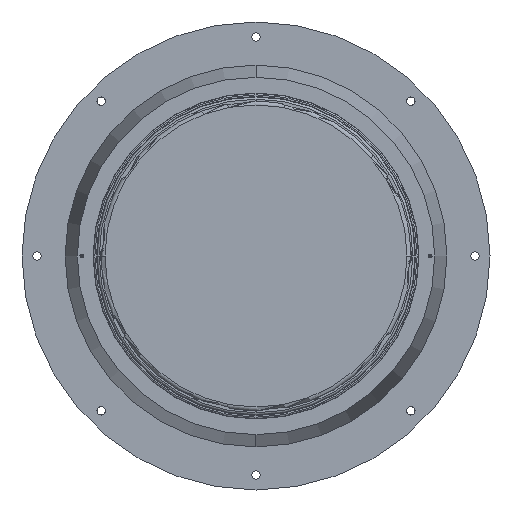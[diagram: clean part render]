
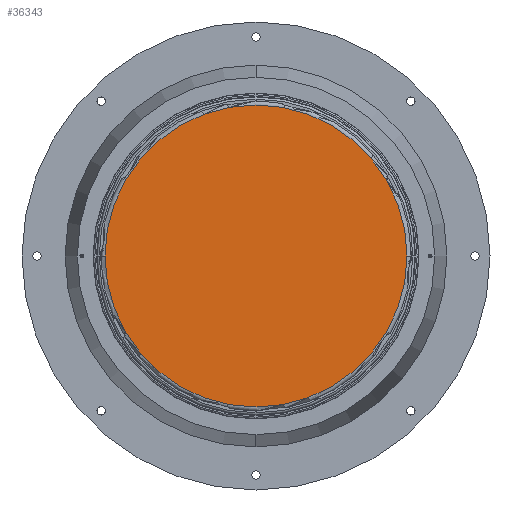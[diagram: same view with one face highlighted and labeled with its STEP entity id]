
A CAD part, front view. The second image highlights one B-rep face of the part: STEP entity #36343.
In plain terms, the highlighted planar face has unit normal (0, -1, 0).
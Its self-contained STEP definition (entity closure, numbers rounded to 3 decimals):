
#1420 = AXIS2_PLACEMENT_3D ( 'NONE', #3865, #66727, #12893 ) ;
#3865 = CARTESIAN_POINT ( 'NONE',  ( 0., 0., 0. ) ) ;
#8092 = EDGE_CURVE ( 'NONE', #80878, #80303, #43767, .T. ) ;
#12893 = DIRECTION ( 'NONE',  ( 0., 0., -1. ) ) ;
#21633 = EDGE_CURVE ( 'NONE', #80303, #80878, #48342, .T. ) ;
#31177 = ORIENTED_EDGE ( 'NONE', *, *, #8092, .T. ) ;
#33463 = CARTESIAN_POINT ( 'NONE',  ( 327.485, 0., 500000. ) ) ;
#36343 = ADVANCED_FACE ( 'NONE', ( #41568 ), #51218, .F. ) ;
#40728 = CARTESIAN_POINT ( 'NONE',  ( -327.485, 0., 0. ) ) ;
#41568 = FACE_OUTER_BOUND ( 'NONE', #59576, .T. ) ;
#42548 = DIRECTION ( 'NONE',  ( 0., 0., 1. ) ) ;
#42968 = CARTESIAN_POINT ( 'NONE',  ( 0., 0., 0. ) ) ;
#43767 = CIRCLE ( 'NONE', #108796, 327.485 ) ;
#48342 = CIRCLE ( 'NONE', #1420, 327.485 ) ;
#51218 = PLANE ( 'NONE',  #106036 ) ;
#52034 = DIRECTION ( 'NONE',  ( 0., 0., -1. ) ) ;
#52412 = CARTESIAN_POINT ( 'NONE',  ( 327.485, 0., 0. ) ) ;
#59576 = EDGE_LOOP ( 'NONE', ( #92890, #31177 ) ) ;
#66727 = DIRECTION ( 'NONE',  ( 0., -1., 0. ) ) ;
#80303 = VERTEX_POINT ( 'NONE', #40728 ) ;
#80878 = VERTEX_POINT ( 'NONE', #52412 ) ;
#92890 = ORIENTED_EDGE ( 'NONE', *, *, #21633, .T. ) ;
#96147 = DIRECTION ( 'NONE',  ( 0., 1., 0. ) ) ;
#105529 = DIRECTION ( 'NONE',  ( 0., -1., 0. ) ) ;
#106036 = AXIS2_PLACEMENT_3D ( 'NONE', #33463, #96147, #42548 ) ;
#108796 = AXIS2_PLACEMENT_3D ( 'NONE', #42968, #105529, #52034 ) ;
